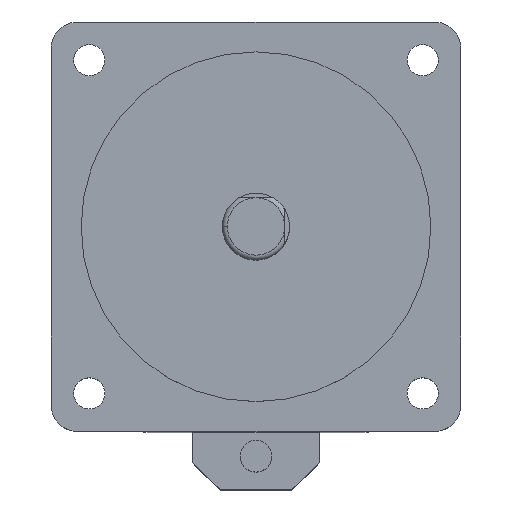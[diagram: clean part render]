
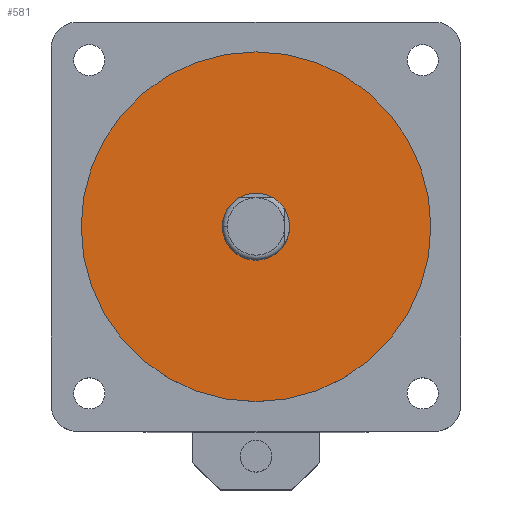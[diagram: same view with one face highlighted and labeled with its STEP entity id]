
A CAD part, top view. The second image highlights one B-rep face of the part: STEP entity #581.
In plain terms, the highlighted planar face has unit normal (0, 0, 1).
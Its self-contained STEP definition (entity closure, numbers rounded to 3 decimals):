
#86 = EDGE_CURVE ( 'NONE', #2912, #711, #1020, .T. ) ;
#111 = CARTESIAN_POINT ( 'NONE',  ( 7., 0., 0. ) ) ;
#119 = DIRECTION ( 'NONE',  ( 0., 0., -1. ) ) ;
#151 = CIRCLE ( 'NONE', #650, 7. ) ;
#191 = CARTESIAN_POINT ( 'NONE',  ( 0., 0., 0. ) ) ;
#209 = DIRECTION ( 'NONE',  ( 0., 0., -1. ) ) ;
#221 = DIRECTION ( 'NONE',  ( -1., 0., 0. ) ) ;
#245 = DIRECTION ( 'NONE',  ( 0., 0., -1. ) ) ;
#356 = EDGE_CURVE ( 'NONE', #896, #1054, #2126, .T. ) ;
#381 = AXIS2_PLACEMENT_3D ( 'NONE', #191, #429, #221 ) ;
#399 = CARTESIAN_POINT ( 'NONE',  ( 0., 0., 0. ) ) ;
#429 = DIRECTION ( 'NONE',  ( 0., 0., -1. ) ) ;
#491 = ORIENTED_EDGE ( 'NONE', *, *, #86, .F. ) ;
#581 = ADVANCED_FACE ( 'NONE', ( #768, #1702 ), #2698, .F. ) ;
#597 = CARTESIAN_POINT ( 'NONE',  ( -7., 0., 0. ) ) ;
#650 = AXIS2_PLACEMENT_3D ( 'NONE', #1359, #245, #1144 ) ;
#711 = VERTEX_POINT ( 'NONE', #1190 ) ;
#723 = CIRCLE ( 'NONE', #1743, 36.513 ) ;
#768 = FACE_OUTER_BOUND ( 'NONE', #2112, .T. ) ;
#834 = AXIS2_PLACEMENT_3D ( 'NONE', #1929, #119, #1486 ) ;
#896 = VERTEX_POINT ( 'NONE', #597 ) ;
#1020 = CIRCLE ( 'NONE', #834, 36.513 ) ;
#1054 = VERTEX_POINT ( 'NONE', #111 ) ;
#1117 = DIRECTION ( 'NONE',  ( -1., 0., 0. ) ) ;
#1144 = DIRECTION ( 'NONE',  ( -1., 0., 0. ) ) ;
#1190 = CARTESIAN_POINT ( 'NONE',  ( -36.513, 0., 0. ) ) ;
#1286 = ORIENTED_EDGE ( 'NONE', *, *, #1797, .F. ) ;
#1359 = CARTESIAN_POINT ( 'NONE',  ( 0., 0., 0. ) ) ;
#1486 = DIRECTION ( 'NONE',  ( -1., 0., 0. ) ) ;
#1666 = AXIS2_PLACEMENT_3D ( 'NONE', #399, #209, #1117 ) ;
#1702 = FACE_BOUND ( 'NONE', #2944, .T. ) ;
#1743 = AXIS2_PLACEMENT_3D ( 'NONE', #2300, #2703, #1842 ) ;
#1759 = ORIENTED_EDGE ( 'NONE', *, *, #356, .T. ) ;
#1797 = EDGE_CURVE ( 'NONE', #711, #2912, #723, .T. ) ;
#1836 = EDGE_CURVE ( 'NONE', #1054, #896, #151, .T. ) ;
#1842 = DIRECTION ( 'NONE',  ( -1., 0., 0. ) ) ;
#1929 = CARTESIAN_POINT ( 'NONE',  ( 0., 0., 0. ) ) ;
#1944 = CARTESIAN_POINT ( 'NONE',  ( 36.513, 0., 0. ) ) ;
#2009 = ORIENTED_EDGE ( 'NONE', *, *, #1836, .T. ) ;
#2112 = EDGE_LOOP ( 'NONE', ( #491, #1286 ) ) ;
#2126 = CIRCLE ( 'NONE', #1666, 7. ) ;
#2300 = CARTESIAN_POINT ( 'NONE',  ( 0., 0., 0. ) ) ;
#2698 = PLANE ( 'NONE',  #381 ) ;
#2703 = DIRECTION ( 'NONE',  ( 0., 0., -1. ) ) ;
#2912 = VERTEX_POINT ( 'NONE', #1944 ) ;
#2944 = EDGE_LOOP ( 'NONE', ( #1759, #2009 ) ) ;
